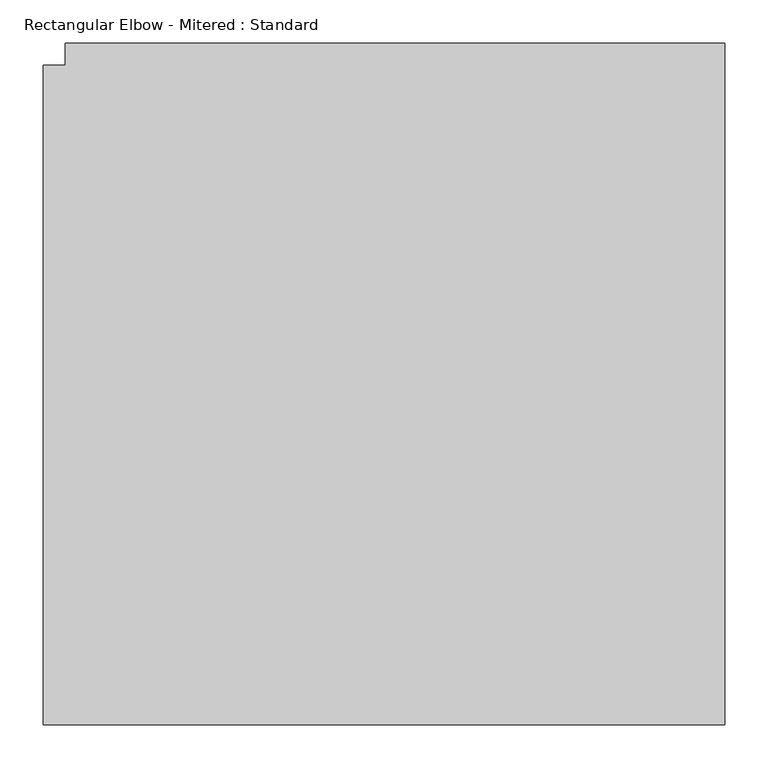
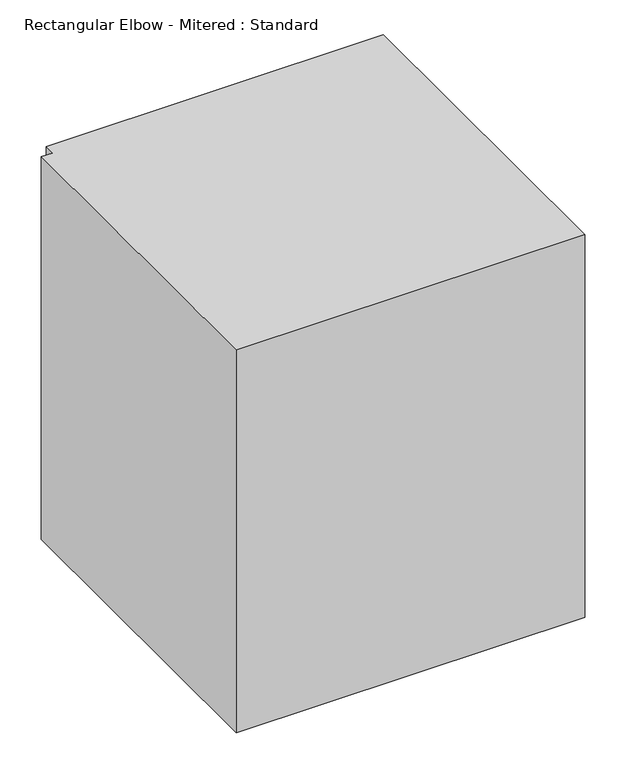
"""IFC4 building model written with IfcOpenShell, lengths in millimetres: duct fitting geometry, Rectangular Elbow - Mitered : Standard."""

from ifc_helpers import new_model, si_unit, frame, origin, place, context, project, spatial, polyline, outline, extrude, source, transform, mapped, element, save


def rectangular_elbow_mitered_standard_11e09260(model_context):
    return source(origin(), model_context, "Body", "SweptSolid", [
        extrude(outline(polyline([(-406.4, -381.0), (-406.4, 381.0), (-381.0, 381.0), (-381.0, 406.4), (381.0, 406.4), (381.0, -381.0), (-406.4, -381.0)])), frame((0.0, 0.0, -457.2), z_axis=(0.0, 0.0, 1.0), x_axis=(1.0, 0.0, 0.0)), (0.0, 0.0, 1.0), 914.4),
    ])


if __name__ == "__main__":
    model = new_model("IFC4")
    model_context = context("Model", 3, world=origin())
    ifc_project = project(units=[si_unit("LENGTHUNIT", "METRE", prefix="MILLI")], contexts=[model_context])
    site = spatial("IfcSite", under=ifc_project)
    building = spatial("IfcBuilding", under=site)
    placement = place(None, origin())
    rectangular_elbow_mitered_standard_shape = rectangular_elbow_mitered_standard_11e09260(model_context)
    element("IfcDuctFitting", 1, ObjectType="Rectangular Elbow - Mitered : Standard", at=placement, inside=building, context=model_context, shape_type="MappedRepresentation", body=[
        mapped(rectangular_elbow_mitered_standard_shape, transform((0.0, 0.0, 0.0), x_axis=(1.0, 0.0, 0.0), y_axis=(0.0, 1.0, 0.0), z_axis=(0.0, 0.0, 1.0))),
    ])
    save(model, "model.ifc")
